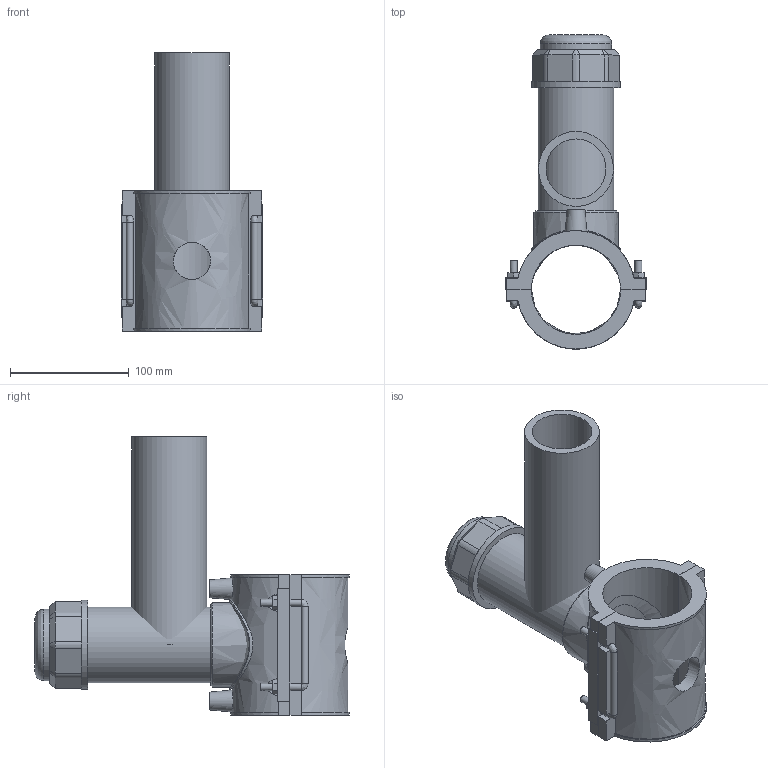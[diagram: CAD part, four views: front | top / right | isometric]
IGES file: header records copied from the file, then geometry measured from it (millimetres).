
Global section: file name: 4963P4075063; native system: Autodesk Inventor 2019; preprocessor: unknown; author: KIM; date: 20220317.112635; units: millimetre
Bounding box: 119 x 264.19 x 234 mm (x, y, z)
Volume: 951508.8 mm3; surface area: 230991.5 mm2
Topology: 3 solids, 3 shells, 179 faces, 462 edges, 297 vertices
Faces by surface type: bspline 179
